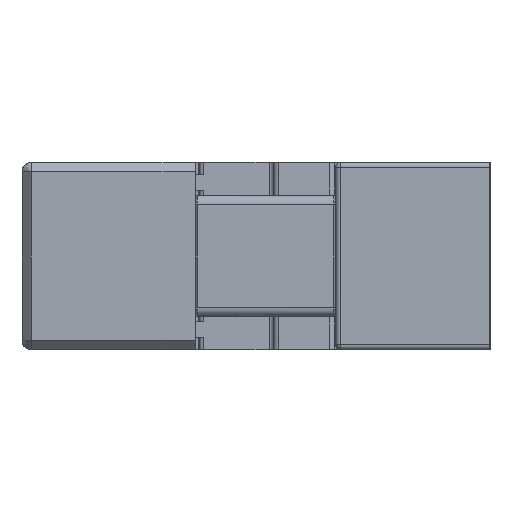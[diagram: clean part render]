
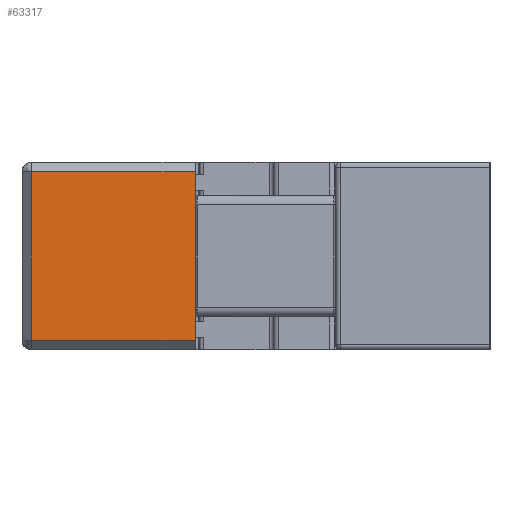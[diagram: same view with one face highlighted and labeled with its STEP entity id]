
A CAD part, left-side view. The second image highlights one B-rep face of the part: STEP entity #63317.
In plain terms, the highlighted planar face has unit normal (-1, 0, 0).
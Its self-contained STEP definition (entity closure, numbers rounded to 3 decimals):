
#4845 = CARTESIAN_POINT ( 'NONE',  ( 1958.715, 340.858, -263.011 ) ) ;
#7795 = EDGE_CURVE ( 'NONE', #54381, #40419, #41966, .T. ) ;
#8790 = CARTESIAN_POINT ( 'NONE',  ( 1958.715, 349.608, -245.011 ) ) ;
#9633 = CARTESIAN_POINT ( 'NONE',  ( 1958.715, 340.858, -264.011 ) ) ;
#10652 = CARTESIAN_POINT ( 'NONE',  ( 1958.715, 356.858, -244.011 ) ) ;
#10658 = CARTESIAN_POINT ( 'NONE',  ( 1958.715, 358.358, -263.011 ) ) ;
#10847 = CARTESIAN_POINT ( 'NONE',  ( 1958.715, 358.358, -244.011 ) ) ;
#10988 = EDGE_CURVE ( 'NONE', #33393, #40419, #44421, .T. ) ;
#13223 = EDGE_LOOP ( 'NONE', ( #62494, #32771, #31451, #82983 ) ) ;
#13750 = VECTOR ( 'NONE', #45451, 1000. ) ;
#24738 = DIRECTION ( 'NONE',  ( 0., -1., 0. ) ) ;
#28107 = VECTOR ( 'NONE', #31367, 1000. ) ;
#30000 = FACE_OUTER_BOUND ( 'NONE', #13223, .T. ) ;
#31367 = DIRECTION ( 'NONE',  ( 0., 0., 1. ) ) ;
#31451 = ORIENTED_EDGE ( 'NONE', *, *, #7795, .T. ) ;
#31873 = LINE ( 'NONE', #10847, #13750 ) ;
#32771 = ORIENTED_EDGE ( 'NONE', *, *, #69572, .T. ) ;
#33393 = VERTEX_POINT ( 'NONE', #62605 ) ;
#36006 = VECTOR ( 'NONE', #63376, 1000. ) ;
#39192 = VERTEX_POINT ( 'NONE', #10658 ) ;
#40419 = VERTEX_POINT ( 'NONE', #62726 ) ;
#41966 = LINE ( 'NONE', #9633, #28107 ) ;
#44421 = LINE ( 'NONE', #8790, #36006 ) ;
#45451 = DIRECTION ( 'NONE',  ( 0., 0., -1. ) ) ;
#50934 = DIRECTION ( 'NONE',  ( 0., 0., -1. ) ) ;
#54381 = VERTEX_POINT ( 'NONE', #4845 ) ;
#57176 = PLANE ( 'NONE',  #74011 ) ;
#58705 = CARTESIAN_POINT ( 'NONE',  ( 1958.715, 356.858, -263.011 ) ) ;
#62494 = ORIENTED_EDGE ( 'NONE', *, *, #70655, .T. ) ;
#62605 = CARTESIAN_POINT ( 'NONE',  ( 1958.715, 358.358, -245.011 ) ) ;
#62726 = CARTESIAN_POINT ( 'NONE',  ( 1958.715, 340.858, -245.011 ) ) ;
#63317 = ADVANCED_FACE ( 'NONE', ( #30000 ), #57176, .T. ) ;
#63376 = DIRECTION ( 'NONE',  ( 0., -1., 0. ) ) ;
#69572 = EDGE_CURVE ( 'NONE', #39192, #54381, #87867, .T. ) ;
#70655 = EDGE_CURVE ( 'NONE', #33393, #39192, #31873, .T. ) ;
#72081 = DIRECTION ( 'NONE',  ( -1., 0., 0. ) ) ;
#74011 = AXIS2_PLACEMENT_3D ( 'NONE', #10652, #72081, #50934 ) ;
#76993 = VECTOR ( 'NONE', #24738, 1000. ) ;
#82983 = ORIENTED_EDGE ( 'NONE', *, *, #10988, .F. ) ;
#87867 = LINE ( 'NONE', #58705, #76993 ) ;
